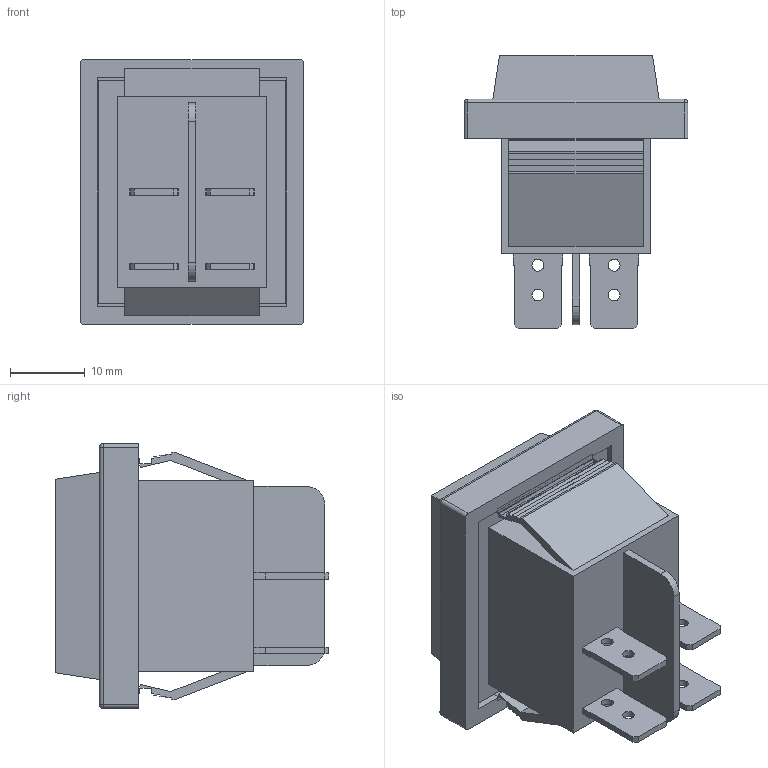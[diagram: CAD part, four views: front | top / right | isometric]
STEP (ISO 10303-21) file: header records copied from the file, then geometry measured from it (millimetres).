
FILE_DESCRIPTION(('FreeCAD Model'),'2;1');
FILE_NAME('Open CASCADE Shape Model','2022-02-10T10:54:03',( 'Engenharia Metaltex'),('Metaltex'), 'Open CASCADE STEP processor 7.5','FreeCAD','Unknown');
FILE_SCHEMA(('AUTOMOTIVE_DESIGN { 1 0 10303 214 1 1 1 1 }'));
Length unit declared in the file: millimetre
Products named in the file (6): Part; Base quadrada; Body001; Body002; Compound005; Compound
Assembly tree (5 placements, depth 2):
  Part
    Base quadrada
    Body001
    Body002
    Compound005
    Compound
Bounding box: 30 x 36.6 x 35.45 mm (x, y, z)
Volume: 10145.4 mm3; surface area: 10622.7 mm2
Topology: 3 solids, 14 shells, 165 faces, 445 edges, 294 vertices
Faces by surface type: plane 133, cylinder 28, sphere 4
Entity records: 10865 total; most frequent: CARTESIAN_POINT 1992, DIRECTION 1635, LINE 1157, VECTOR 1157, ORIENTED_EDGE 822, PCURVE 822, DEFINITIONAL_REPRESENTATION 822, EDGE_CURVE 441
